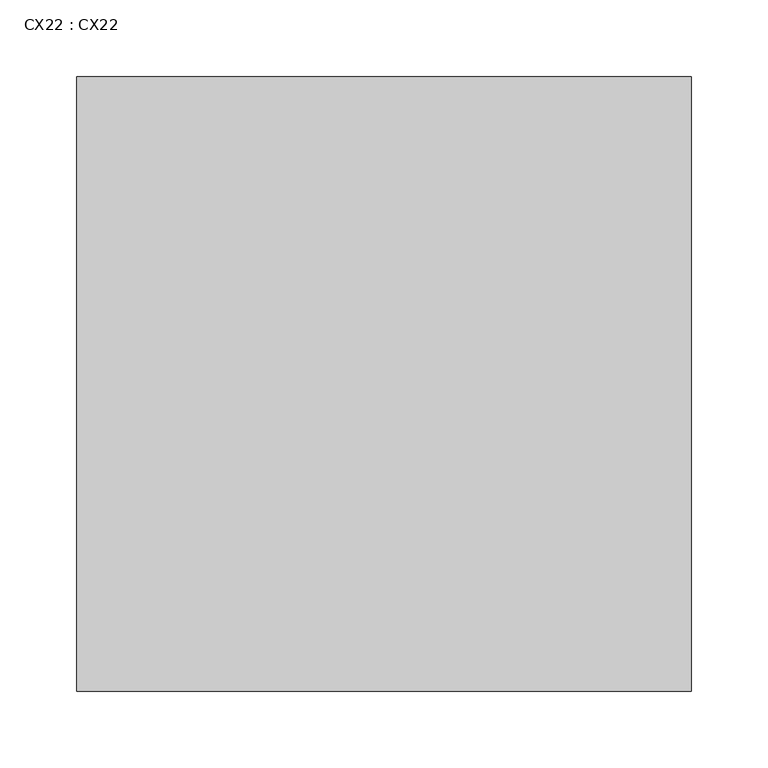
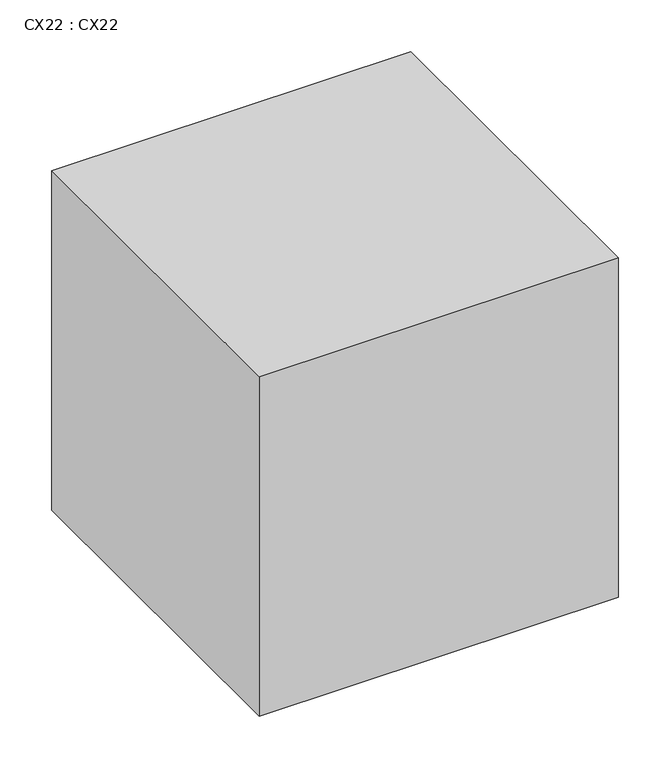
"""IFC4 building model written with IfcOpenShell, lengths in millimetres: proxy geometry, CX22 : CX22."""

from ifc_helpers import new_model, si_unit, frame, origin, place, context, project, spatial, polyline, outline, extrude, source, transform, mapped, element, save


def cx22_cx22_2d15de04(model_context):
    return source(origin(), model_context, "Body", "SweptSolid", [
        extrude(outline(polyline([(11312.3, 1603.65), (11312.3, 1203.65), (10912.3, 1203.65), (10912.3, 1603.65), (11312.3, 1603.65)])), frame((0.0, 0.0, -370.0), z_axis=(0.0, 0.0, 1.0), x_axis=(1.0, 0.0, 0.0)), (0.0, 0.0, 1.0), 400.0),
    ])


if __name__ == "__main__":
    model = new_model("IFC4")
    model_context = context("Model", 3, world=origin())
    ifc_project = project(units=[si_unit("LENGTHUNIT", "METRE", prefix="MILLI")], contexts=[model_context])
    site = spatial("IfcSite", under=ifc_project)
    building = spatial("IfcBuilding", under=site)
    placement = place(None, origin())
    cx22_cx22_shape = cx22_cx22_2d15de04(model_context)
    element("IfcBuildingElementProxy", 1, Name="CX22 : CX22", ObjectType="CX22 : CX22", at=placement, inside=building, context=model_context, shape_type="MappedRepresentation", body=[
        mapped(cx22_cx22_shape, transform((0.0, 0.0, 0.0), x_axis=(1.0, 0.0, 0.0), y_axis=(0.0, 1.0, 0.0), z_axis=(0.0, 0.0, 1.0))),
    ])
    save(model, "model.ifc")
